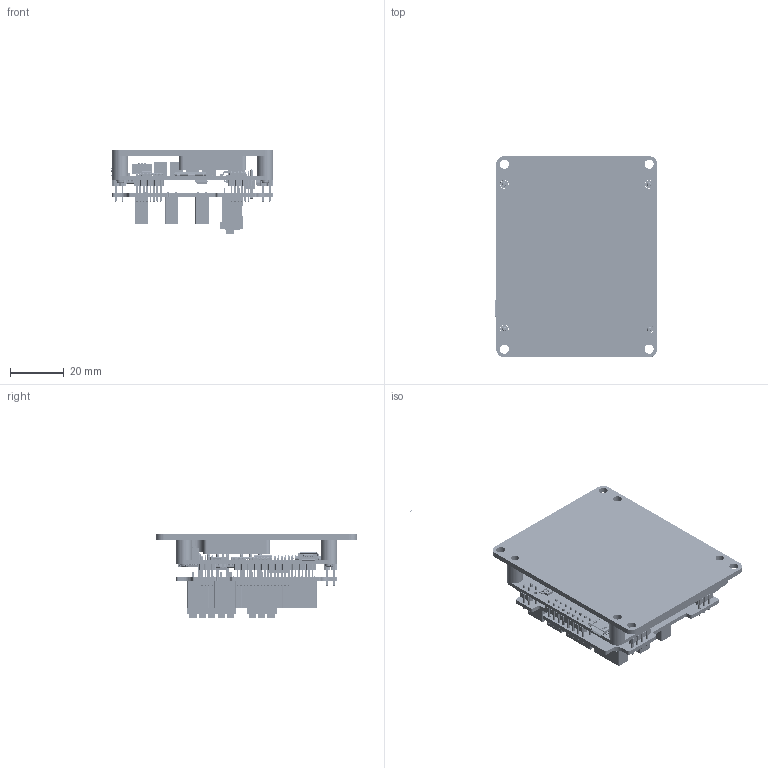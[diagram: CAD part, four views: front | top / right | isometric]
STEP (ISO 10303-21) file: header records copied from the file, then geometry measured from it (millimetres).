
FILE_DESCRIPTION (( 'STEP AP214' ), '1' );
FILE_NAME ('i038-01H1-Pinheader(nude)+ConnectorBoard.STEP', '2016-02-18T16:40:01', ( '' ), ( '' ), 'SwSTEP 2.0', 'SolidWorks 2016', '' );
FILE_SCHEMA (( 'AUTOMOTIVE_DESIGN' ));
Length unit declared in the file: millimetre
Products named in the file (20): i038-01H1(nude); i038-01H2(BASIC); mill-max-0600-0-05-15-00-00-01-0; screw; i021-04M1; i038-01H1-Pinheader(nude)+ConnectorBoard
Assembly tree (14 placements, depth 2):
  i038-01H1(nude)
  i038-01H2(BASIC)
  mill-max-0600-0-05-15-00-00-01-0
  mill-max-0600-0-05-15-00-00-01-0
  mill-max-0600-0-05-15-00-00-01-0
Bounding box: 60.56 x 123.3 x 31.05 mm (x, y, z)
Surface area: 43254.6 mm2
Topology: 11 solids, 921 shells, 13051 faces, 35330 edges, 23975 vertices
Faces by surface type: plane 8156, cylinder 4022, bspline 523, cone 338, torus 12
Entity records: 564663 total; most frequent: CARTESIAN_POINT 100092, ORIENTED_EDGE 65860, DIRECTION 65036, EDGE_CURVE 34812, VECTOR 25122, LINE 25122, VERTEX_POINT 23693, AXIS2_PLACEMENT_3D 19957
